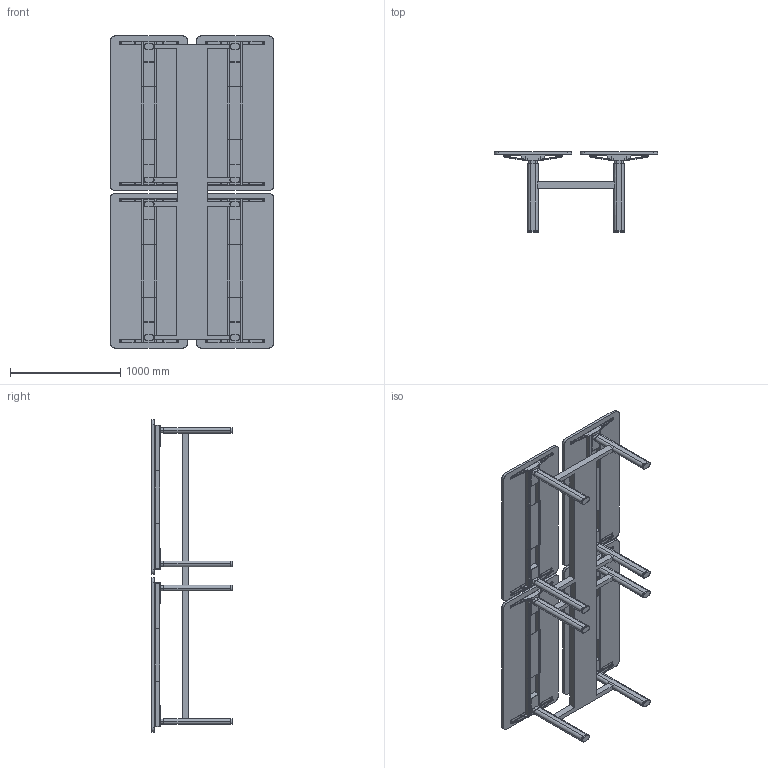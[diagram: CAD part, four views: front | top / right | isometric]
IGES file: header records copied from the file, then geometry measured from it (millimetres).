
Start section: SolidWorks IGES file using analytic representation for surfaces
Global section: file name: C:\Users\simone.cerana\OneDrive - Gruppo Tecno\Desktop\CHINA\DISEGNI DI SERIE\ASSIEMI LISTINO\AXIS LISTINO\AX2814ST.IGS; native system: SolidWorks 2024; preprocessor: SolidWorks 2024; author: simone.cerana; date: 260508.091859; units: millimetre
Bounding box: 1480 x 729.39 x 2830 mm (x, y, z)
Surface area: 13961579.6 mm2 (no closed solid volume)
Topology: 0 solids, 0 shells, 1086 faces, 12728 edges, 12712 vertices
Faces by surface type: revolution 544, bspline 542
